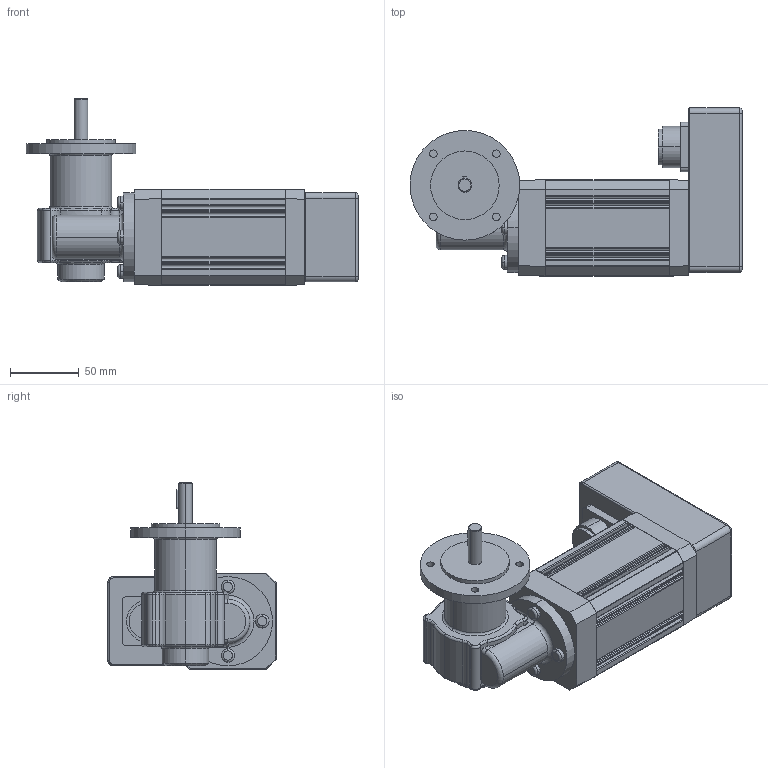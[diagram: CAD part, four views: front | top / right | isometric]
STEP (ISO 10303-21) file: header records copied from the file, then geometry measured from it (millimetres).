
FILE_DESCRIPTION(('OneSpaceDesigner STEP Export'),'2;1');
FILE_NAME('UECG303TH_GF128-10_F.stp','2008-06-24T 9:15:32',(''),(''),'OneSpace Designer STEP processor (Jan. 2003) for AP214(CD)(Solid Model)','OneSpace Designer 12.01D 09-Jul-2004 (C) CoCreate Software GmbH','');
FILE_SCHEMA(('AUTOMOTIVE_DESIGN_CC2 {1 2 10303 214 -1 1 5 1}'));
Length unit declared in the file: millimetre
Products named in the file (2): UECG303TH_GF128-10_F
Assembly tree (1 placements, depth 2):
  UECG303TH_GF128-10_F
    UECG303TH_GF128-10_F
Bounding box: 242 x 122.6 x 136.1 mm (x, y, z)
Volume: 1201801.3 mm3; surface area: 110999.7 mm2
Topology: 1 solids, 1 shells, 349 faces, 906 edges, 575 vertices
Faces by surface type: cylinder 155, plane 116, torus 74, cone 4
Entity records: 11109 total; most frequent: CARTESIAN_POINT 2904, ORIENTED_EDGE 1812, DIRECTION 1654, EDGE_CURVE 906, AXIS2_PLACEMENT_3D 616, VERTEX_POINT 575, VECTOR 422, LINE 422
